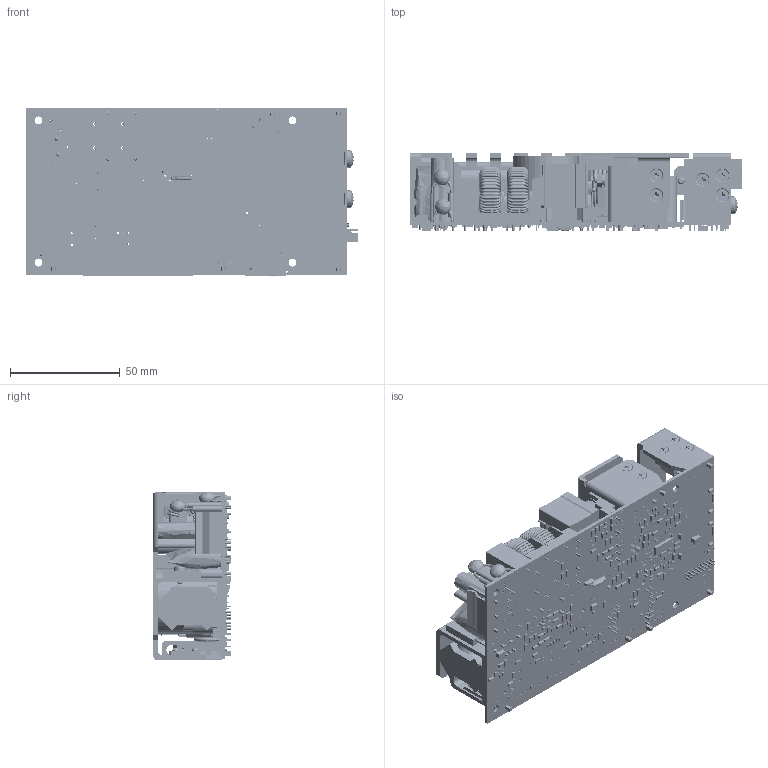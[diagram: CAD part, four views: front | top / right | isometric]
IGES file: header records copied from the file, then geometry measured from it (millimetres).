
Start section: SolidWorks IGES file using analytic representation for surfaces
Global section: file name: H:\EMH350\IGES\EMH ORING DIODE OPTION.IGS; native system: SolidWorks 2011; preprocessor: SolidWorks 2011; author: mbeeson; date: 110119.145141; units: millimetre
Bounding box: 151.05 x 35.3 x 76.68 mm (x, y, z)
Surface area: 168701.6 mm2 (no closed solid volume)
Topology: 0 solids, 0 shells, 8775 faces, 75533 edges, 75427 vertices
Faces by surface type: bspline 5833, revolution 2942
